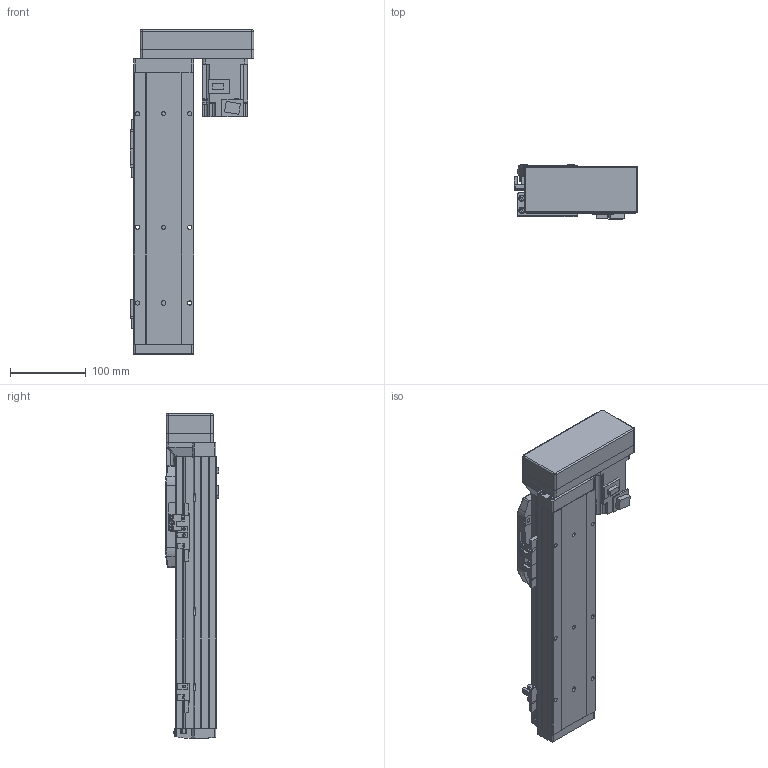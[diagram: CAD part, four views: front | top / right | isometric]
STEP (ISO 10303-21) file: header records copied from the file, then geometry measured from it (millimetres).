
FILE_DESCRIPTION (( 'STEP AP214' ), '1' );
FILE_NAME ('GSH8-200-BL-M20-1.step', '2025-01-07T06:05:14', ( '' ), ( '' ), 'SwSTEP 2.0', 'SolidWorks 2012', '' );
FILE_SCHEMA (( 'AUTOMOTIVE_DESIGN' ));
Length unit declared in the file: millimetre
Products named in the file (5): HG-KR23_200W_Motor; GSH8-BL-011-200-M20; GSH8-BL-008; GSH8-GY-004; GSH8-200-BL-M20-1
Assembly tree (4 placements, depth 2):
  GSH8-200-BL-M20-1
    GSH8-BL-011-200-M20
    GSH8-GY-004
    GSH8-BL-008
    HG-KR23_200W_Motor
Bounding box: 163 x 71.3 x 428.2 mm (x, y, z)
Volume: 1474627.8 mm3; surface area: 320682.6 mm2
Topology: 4 solids, 8 shells, 1088 faces, 2837 edges, 1822 vertices
Faces by surface type: plane 624, cylinder 368, torus 42, cone 26, bspline 24, sphere 4
Entity records: 42739 total; most frequent: CARTESIAN_POINT 9696, DIRECTION 5753, ORIENTED_EDGE 5658, EDGE_CURVE 2829, AXIS2_PLACEMENT_3D 1931, LINE 1891, VECTOR 1891, VERTEX_POINT 1818
